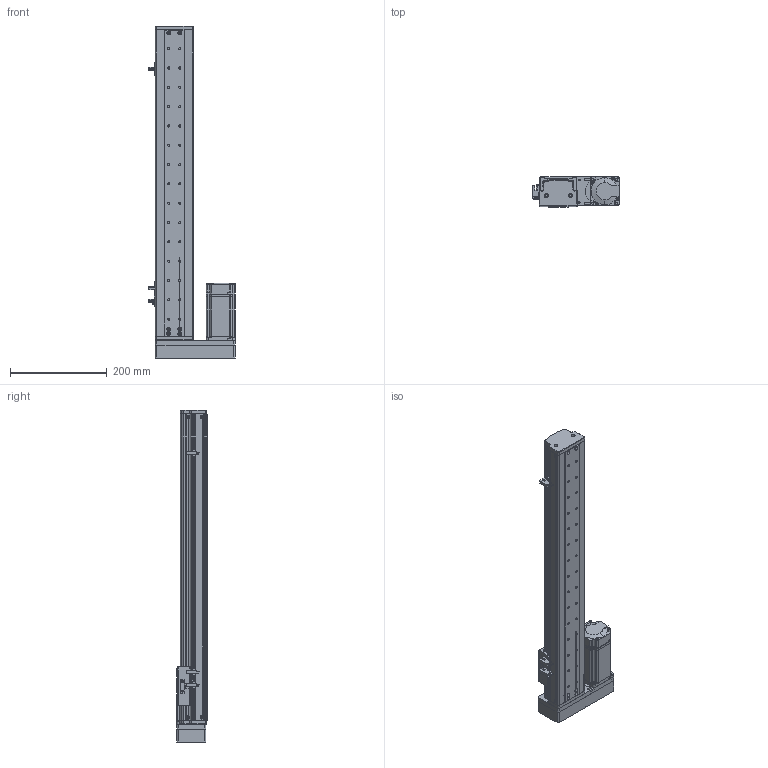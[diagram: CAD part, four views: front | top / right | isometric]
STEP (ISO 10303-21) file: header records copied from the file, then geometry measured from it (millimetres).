
FILE_DESCRIPTION (( 'STEP AP214' ), '1' );
FILE_NAME ('KSD75S-S480-ML-CM.STEP', '2019-10-18T06:58:43', ( '微软用户' ), ( '微软中国' ), 'SwSTEP 2.0', 'SolidWorks 2014', '' );
FILE_SCHEMA (( 'AUTOMOTIVE_DESIGN' ));
Length unit declared in the file: millimetre
Products named in the file (13): 綴傷啣 ; ヶ傷啣; 75裔啣-480俴最; 75遵耀郪耜啣-480俴最; 75遵賑雄釱; MGW15H賑寢480俴最 ; 480俴最; KSD75S-S480-ML-CM; MHMD042G1CA_2_03; 75宽模组保护罩左右折; 75宽马达安装板连板左右折丝杆; 覜茼え100遵圉猾敕; U倰嫖萇EEㄜSX672
Assembly tree (15 placements, depth 3):
  KSD75S-S480-ML-CM
    MGW15H賑寢480俴最 
      480俴最
    75遵賑雄釱
    75遵耀郪耜啣-480俴最  x2
    75裔啣-480俴最
    ヶ傷啣
    綴傷啣 
    U倰嫖萇EEㄜSX672  x3
    覜茼え100遵圉猾敕
    75宽马达安装板连板左右折丝杆
    75宽模组保护罩左右折
    MHMD042G1CA_2_03
Bounding box: 178.7 x 63 x 687.5 mm (x, y, z)
Volume: 909927.9 mm3; surface area: 572670.4 mm2
Topology: 13 solids, 14 shells, 1483 faces, 4186 edges, 2733 vertices
Faces by surface type: cylinder 707, plane 629, cone 129, bspline 18
Entity records: 47534 total; most frequent: CARTESIAN_POINT 9018, DIRECTION 7124, ORIENTED_EDGE 6652, EDGE_CURVE 3397, AXIS2_PLACEMENT_3D 2618, VERTEX_POINT 2251, LINE 1888, VECTOR 1888
